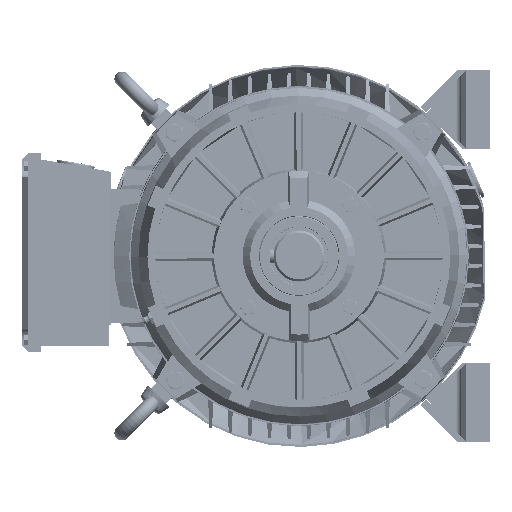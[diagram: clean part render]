
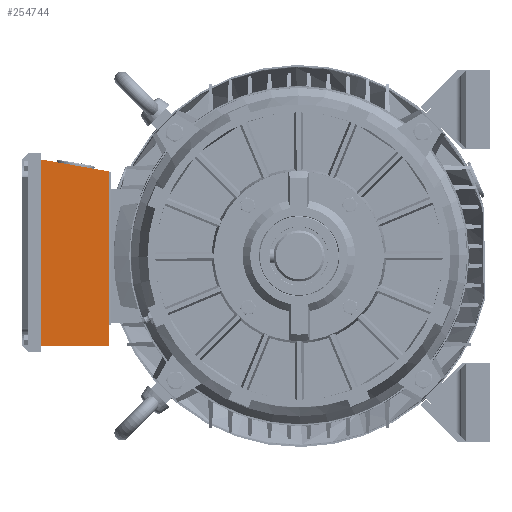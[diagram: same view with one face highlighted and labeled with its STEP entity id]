
A CAD part, left-side view. The second image highlights one B-rep face of the part: STEP entity #254744.
In plain terms, the highlighted planar face has unit normal (-1, 0, 0).
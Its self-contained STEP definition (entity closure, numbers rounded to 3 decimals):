
#15764 = LINE ( 'NONE', #177124, #180246 ) ;
#25181 = CARTESIAN_POINT ( 'NONE',  ( -44.249, 250.75, 90.985 ) ) ;
#28061 = ORIENTED_EDGE ( 'NONE', *, *, #254988, .F. ) ;
#33366 = VECTOR ( 'NONE', #157837, 1000. ) ;
#38961 = DIRECTION ( 'NONE',  ( 0., 0., -1. ) ) ;
#43725 = ORIENTED_EDGE ( 'NONE', *, *, #131364, .T. ) ;
#49960 = ORIENTED_EDGE ( 'NONE', *, *, #218006, .F. ) ;
#54871 = DIRECTION ( 'NONE',  ( 0., 0.985, 0.174 ) ) ;
#55678 = DIRECTION ( 'NONE',  ( 1., 0., 0. ) ) ;
#62200 = CARTESIAN_POINT ( 'NONE',  ( -44.249, 186.75, -85. ) ) ;
#63044 = VERTEX_POINT ( 'NONE', #192585 ) ;
#75041 = DIRECTION ( 'NONE',  ( 0., 1., 0. ) ) ;
#82696 = LINE ( 'NONE', #183438, #217241 ) ;
#103050 = VERTEX_POINT ( 'NONE', #161745 ) ;
#112432 = CARTESIAN_POINT ( 'NONE',  ( -44.249, 186.75, 79.7 ) ) ;
#115571 = CARTESIAN_POINT ( 'NONE',  ( -44.249, 158.585, 74.734 ) ) ;
#131364 = EDGE_CURVE ( 'NONE', #229176, #234081, #153030, .T. ) ;
#134493 = PLANE ( 'NONE',  #142775 ) ;
#142775 = AXIS2_PLACEMENT_3D ( 'NONE', #178339, #55678, #75041 ) ;
#152277 = ORIENTED_EDGE ( 'NONE', *, *, #208909, .T. ) ;
#153030 = LINE ( 'NONE', #115571, #203775 ) ;
#157837 = DIRECTION ( 'NONE',  ( 0., 0., -1. ) ) ;
#161745 = CARTESIAN_POINT ( 'NONE',  ( -44.249, 186.75, -85. ) ) ;
#174502 = FACE_OUTER_BOUND ( 'NONE', #223092, .T. ) ;
#177124 = CARTESIAN_POINT ( 'NONE',  ( -44.249, 250.75, -85. ) ) ;
#178339 = CARTESIAN_POINT ( 'NONE',  ( -44.249, 186.75, -85. ) ) ;
#180246 = VECTOR ( 'NONE', #38961, 1000. ) ;
#183438 = CARTESIAN_POINT ( 'NONE',  ( -44.249, 186.75, -85. ) ) ;
#192585 = CARTESIAN_POINT ( 'NONE',  ( -44.249, 250.75, -85. ) ) ;
#198991 = DIRECTION ( 'NONE',  ( 0., 1., 0. ) ) ;
#200416 = LINE ( 'NONE', #62200, #33366 ) ;
#203775 = VECTOR ( 'NONE', #54871, 1000. ) ;
#208909 = EDGE_CURVE ( 'NONE', #234081, #63044, #15764, .T. ) ;
#217241 = VECTOR ( 'NONE', #198991, 1000. ) ;
#218006 = EDGE_CURVE ( 'NONE', #229176, #103050, #200416, .T. ) ;
#223092 = EDGE_LOOP ( 'NONE', ( #152277, #28061, #49960, #43725 ) ) ;
#229176 = VERTEX_POINT ( 'NONE', #112432 ) ;
#234081 = VERTEX_POINT ( 'NONE', #25181 ) ;
#254744 = ADVANCED_FACE ( 'NONE', ( #174502 ), #134493, .F. ) ;
#254988 = EDGE_CURVE ( 'NONE', #103050, #63044, #82696, .T. ) ;
